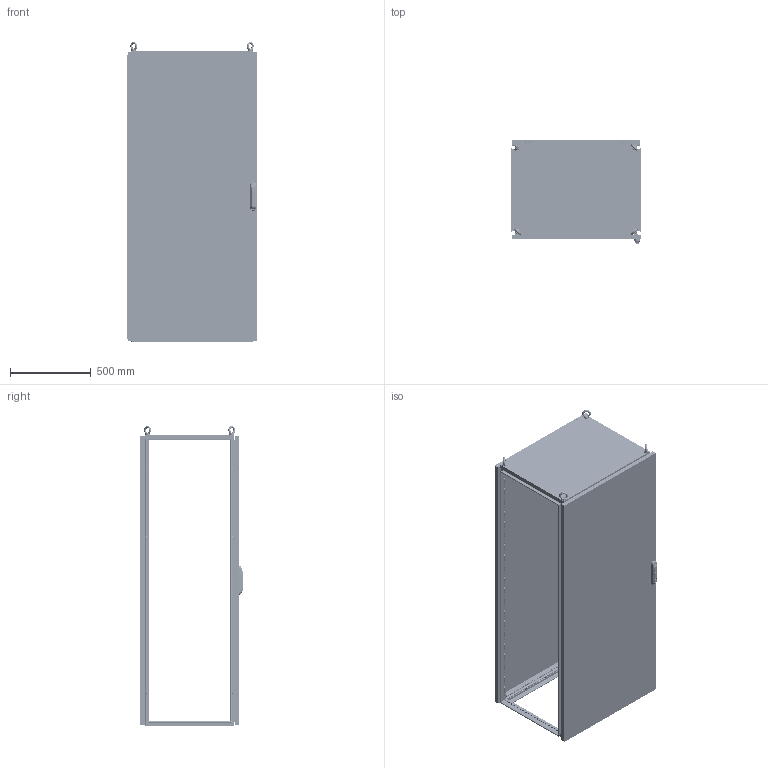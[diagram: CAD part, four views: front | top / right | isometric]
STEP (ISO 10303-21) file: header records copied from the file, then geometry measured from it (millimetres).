
FILE_DESCRIPTION(/* description */ ('Unknown'),/* implementation_level */ '2;1');
FILE_NAME(/* name */ 'MCA08018060',/* time_stamp */ '2025-03-07T08:48:16+01:00',/* author */ ('Unknown'),/* organization */ ('Unknown'),/* preprocessor_version */ 'ST-DEVELOPER v19.4',/* originating_system */ 'Solid Edge',/* authorisation */ 'Unknown');
FILE_SCHEMA (('CONFIG_CONTROL_DESIGN'));
Products named in the file (46): MCA08018060; F0000001.24; AE00198.03; M000X000.14; M0000000.29; AE00500.10; M000X000.53; M0000000.43; M0000000.39; M0000000.06; AE00219.03; AE00715.01; M000X000.15; M0000000.30; F000X000.92; F000X000.93; F0000000.80; F0000000.07; AE00100.03_oa_0; AE00100.03_oa_1; AE00100.03_oa_2; AE00100.03_oa_3; M0000000.37; AE00701.03; F0000000.13; F000X000.94; F000X000.95; F000X000.96; F0000000.81; F000X000.71; F0000002.21; F0000002.17; AE01400.01; AE00413.05; AE00417.01; F0000000.12; AE00222.15; AE00316.01; AE00992.10_oa_4; AE00992.31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
Assembly tree (190 placements, depth 5):
  MCA08018060
    F0000001.24  x4
    AE00198.03  x16
    M000X000.14
      M0000000.29  x4
      AE00500.10  x48
      M000X000.53  x2
        M0000000.43
        M0000000.39
        M0000000.06
    AE00219.03  x8
    AE00715.01  x4
    M000X000.15
      M0000000.30
    F000X000.92
      F000X000.93
        F0000000.80
      F0000000.07  x2
      AE00100.03_oa_0
      AE00100.03_oa_1
      AE00100.03_oa_2
      AE00100.03_oa_3
    M0000000.37  x8
    AE00701.03  x4
    F0000000.13  x4
    F000X000.94
      F000X000.95
        F000X000.96
          F0000000.81
        F000X000.71
          F0000002.21  x2
          F0000002.17  x2
          AE01400.01  x4
        AE00413.05  x4
        AE00417.01  x2
      F0000000.12  x8
      AE00222.15  x8
      AE00316.01  x8
      AE00992.10_oa_4
      AE00992.31
      AE00315.01  x4
      AE00992.74   x2
      AE00992.18  x4
      AE00992.16
      AE00636.02  x8
    F0000000.08  x4
Bounding box: 800 x 638.2 x 1856.94 mm (x, y, z)
Volume: 14946731.7 mm3; surface area: 13497222.7 mm2
Topology: 199 solids, 199 shells, 10100 faces, 28860 edges, 19307 vertices
Faces by surface type: plane 7233, cylinder 2261, cone 534, torus 42, sphere 16, bspline 14
Full cylindrical faces by diameter (mm): 2 x4, 3 x1, 3.242 x2, 4 x12, 4.134 x5, 4.25 x182, 4.5 x928, 4.917 x65, 4.918 x8, 5 x6, 6 x58, 6.1 x20, 6.2 x8, 6.5 x20, 7.5 x2, 8.3 x8, 8.5 x2, 9 x48, 10.106 x8, 10.5 x16, 11.8 x8, 12 x16, 13 x4, 14 x1, 16 x1, 17 x1, 23 x2, 30 x4
Entity records: 78782 total; most frequent: CARTESIAN_POINT 13793, ORIENTED_EDGE 12196, DIRECTION 12146, EDGE_CURVE 6098, LINE 4800, VECTOR 4800, VERTEX_POINT 4324, FACE_BOUND 3976
